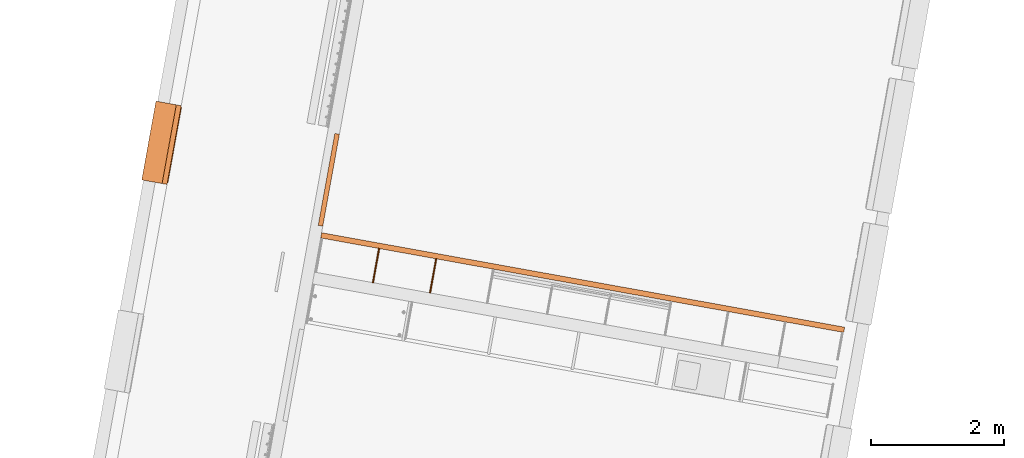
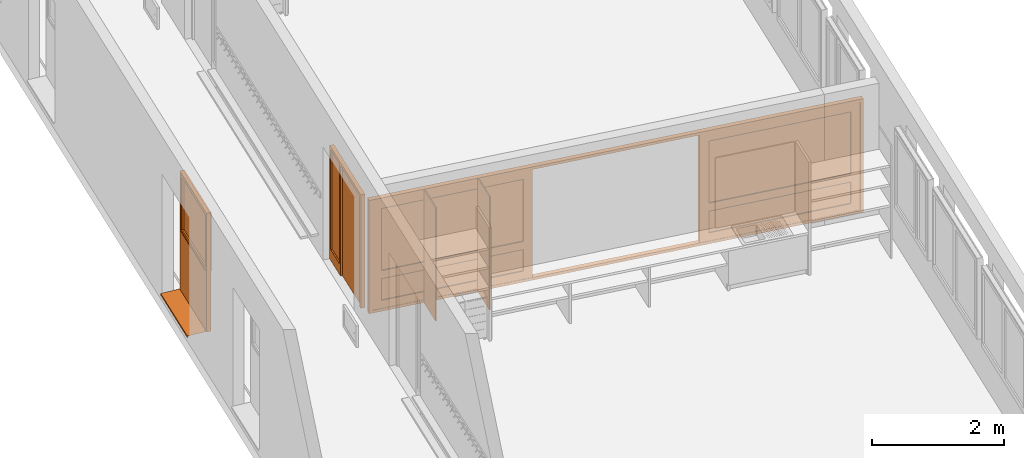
# One storey, part 11 of 52: 5 proxies.
"""IFC2X3 building model written with IfcOpenShell, lengths in metres."""

from ifc_helpers import new_model, entity, si_unit, converted_unit, derived_unit, money_unit, direction, frame, origin_with_axes, place, context, subcontext, project, spatial, polyline, outline, extrude, open_shell, faceted_brep, surface_model, source, transform, mapped, material, type_object, element, save


model = new_model("IFC2X3")

# Units and contexts
model_context = context("Model", 3, precision=1e-05, world=origin_with_axes(), true_north=direction((0.0, 1.0)))
body_context = subcontext(model_context, "Body", "Model", "MODEL_VIEW")
ifc_project = project(units=[si_unit("LENGTHUNIT", "METRE"), si_unit("AREAUNIT", "SQUARE_METRE"), si_unit("VOLUMEUNIT", "CUBIC_METRE"), converted_unit("PLANEANGLEUNIT", "DEGREE", entity("IfcPlaneAngleMeasure", 0.0174532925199), si_unit("PLANEANGLEUNIT", "RADIAN"), dimensions=[0, 0, 0, 0, 0, 0, 0]), money_unit("CHF"), converted_unit("TIMEUNIT", "Year", entity("IfcTimeMeasure", 31556926.0), si_unit("TIMEUNIT", "SECOND"), dimensions=[0, 0, 1, 0, 0, 0, 0]), si_unit("MASSUNIT", "GRAM", prefix="KILO"), si_unit("THERMODYNAMICTEMPERATUREUNIT", "DEGREE_CELSIUS"), si_unit("LUMINOUSINTENSITYUNIT", "LUMEN"), si_unit("ENERGYUNIT", "JOULE", prefix="MEGA"), derived_unit("THERMALCONDUCTANCEUNIT", [(si_unit("POWERUNIT", "WATT"), 1), (si_unit("LENGTHUNIT", "METRE"), -1), (si_unit("THERMODYNAMICTEMPERATUREUNIT", "KELVIN"), -1)]), derived_unit("SPECIFICHEATCAPACITYUNIT", [(si_unit("ENERGYUNIT", "JOULE"), 1), (si_unit("MASSUNIT", "GRAM", prefix="KILO"), -1), (si_unit("THERMODYNAMICTEMPERATUREUNIT", "KELVIN"), -1)]), derived_unit("MASSDENSITYUNIT", [(si_unit("MASSUNIT", "GRAM", prefix="KILO"), 1), (si_unit("VOLUMEUNIT", "CUBIC_METRE"), -1)])], contexts=[model_context])

# Site, building, storey
site_placement = place(None, frame((0.0, 0.0, 0.0), z_axis=(0.0, 0.0, 1.0), x_axis=(-0.177771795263, -0.984071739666, 0.0)))
site = spatial("IfcSite", under=ifc_project, at=site_placement, Name="Site", CompositionType="ELEMENT")
building_placement = place(site_placement, origin_with_axes())
building = spatial("IfcBuilding", under=site, at=building_placement, Name="Bâtiment", CompositionType="ELEMENT")
storey_placement = place(building_placement, frame((0.0, 0.0, 3.2), z_axis=(0.0, 0.0, 1.0), x_axis=(1.0, 0.0, 0.0)))
storey = spatial("IfcBuildingStorey", under=building, at=storey_placement, Name="R+1", CompositionType="ELEMENT", Elevation=3.2)

# Proxies
ifc_material_1 = material(Name="Matériau de construction IFC")
building_element_proxy_type_1 = type_object("IfcBuildingElementProxyType", Name="porte-couliss-triple_JM2", PredefinedType="NOTDEFINED")
shared_shape_1 = source(origin_with_axes(), body_context, "Body", "SurfaceModel", [
    surface_model("IfcShellBasedSurfaceModel", [(7.92, -0.0799999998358, 0.05), (7.92, -0.0799999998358, 2.05), (7.92, 1.64206426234e-10, 2.05), (7.92, 1.64206426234e-10, 0.05), (7.97, -0.0799999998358, 2.05), (7.97, -0.0799999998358, 0.05), (7.97, 1.64206426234e-10, 2.05), (7.97, 1.64206426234e-10, 0.05)], [open_shell([[[0, 1, 2, 3]], [[4, 1, 0, 5]], [[6, 7, 3, 2]]])]),
    surface_model("IfcShellBasedSurfaceModel", [(7.97, -0.0799999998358, 0.0), (7.97, -0.0799999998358, 2.1), (7.97, 1.64206426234e-10, 2.1), (7.97, 1.64206426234e-10, 0.0)], [open_shell([[[0, 1, 2, 3]]])]),
    surface_model("IfcShellBasedSurfaceModel", [(0.05, -0.0799999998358, 0.05), (7.92, -0.0799999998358, 0.05), (7.92, 1.64206426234e-10, 0.05), (0.05, 1.64206426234e-10, 0.05), (7.92, -0.0799999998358, 0.0), (0.05, -0.0799999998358, 0.0), (7.92, 1.64206426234e-10, 0.0), (0.05, 1.64206426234e-10, 0.0)], [open_shell([[[0, 1, 2, 3]], [[4, 1, 0, 5]], [[6, 7, 3, 2]]])]),
    surface_model("IfcShellBasedSurfaceModel", [(7.97, -0.0799999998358, 0.0), (0.0, -0.0799999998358, 0.0), (0.0, 1.64206426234e-10, 0.0), (7.97, 1.64206426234e-10, 0.0)], [open_shell([[[0, 1, 2, 3]]])]),
    surface_model("IfcShellBasedSurfaceModel", [(7.97, -0.0799999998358, 0.0), (7.97, -0.0799999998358, 0.05), (7.92, -0.0799999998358, 0.05), (7.92, -0.0799999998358, 0.0)], [open_shell([[[0, 1, 2, 3]]])]),
    surface_model("IfcShellBasedSurfaceModel", [(7.97, 1.64206426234e-10, 0.0), (7.97, 1.64206426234e-10, 0.05), (7.92, 1.64206426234e-10, 0.05), (7.92, 1.64206426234e-10, 0.0)], [open_shell([[[0, 1, 2, 3]]])]),
    surface_model("IfcShellBasedSurfaceModel", [(0.05, -0.0799999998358, 0.0), (0.05, -0.0799999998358, 0.05), (0.0, -0.0799999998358, 0.05), (0.0, -0.0799999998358, 0.0)], [open_shell([[[0, 1, 2, 3]]])]),
    surface_model("IfcShellBasedSurfaceModel", [(0.05, 1.64206426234e-10, 0.0), (0.05, 1.64206426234e-10, 0.05), (0.0, 1.64206426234e-10, 0.05), (0.0, 1.64206426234e-10, 0.0)], [open_shell([[[0, 1, 2, 3]]])]),
    surface_model("IfcShellBasedSurfaceModel", [(0.05, -0.0799999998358, 2.05), (0.05, -0.0799999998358, 0.05), (0.05, 1.64206426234e-10, 0.05), (0.05, 1.64206426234e-10, 2.05), (0.0, -0.0799999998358, 0.05), (0.0, -0.0799999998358, 2.05), (0.0, 1.64206426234e-10, 0.05), (0.0, 1.64206426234e-10, 2.05)], [open_shell([[[0, 1, 2, 3]], [[4, 1, 0, 5]], [[6, 7, 3, 2]]])]),
    surface_model("IfcShellBasedSurfaceModel", [(0.0, -0.0799999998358, 0.0), (0.0, -0.0799999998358, 2.1), (0.0, 1.64206426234e-10, 2.1), (0.0, 1.64206426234e-10, 0.0)], [open_shell([[[0, 1, 2, 3]]])]),
    surface_model("IfcShellBasedSurfaceModel", [(7.92, -0.0799999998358, 2.05), (0.05, -0.0799999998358, 2.05), (0.05, 1.64206426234e-10, 2.05), (7.92, 1.64206426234e-10, 2.05), (0.05, -0.0799999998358, 2.1), (7.92, -0.0799999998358, 2.1), (0.05, 1.64206426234e-10, 2.1), (7.92, 1.64206426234e-10, 2.1)], [open_shell([[[0, 1, 2, 3]], [[4, 1, 0, 5]], [[6, 7, 3, 2]]])]),
    surface_model("IfcShellBasedSurfaceModel", [(7.97, -0.0799999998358, 2.1), (0.0, -0.0799999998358, 2.1), (0.0, 1.64206426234e-10, 2.1), (7.97, 1.64206426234e-10, 2.1)], [open_shell([[[0, 1, 2, 3]]])]),
    surface_model("IfcShellBasedSurfaceModel", [(7.97, -0.0799999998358, 2.05), (7.97, -0.0799999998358, 2.1), (7.92, -0.0799999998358, 2.1), (7.92, -0.0799999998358, 2.05)], [open_shell([[[0, 1, 2, 3]]])]),
    surface_model("IfcShellBasedSurfaceModel", [(7.97, 1.64206426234e-10, 2.05), (7.97, 1.64206426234e-10, 2.1), (7.92, 1.64206426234e-10, 2.1), (7.92, 1.64206426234e-10, 2.05)], [open_shell([[[0, 1, 2, 3]]])]),
    surface_model("IfcShellBasedSurfaceModel", [(0.05, -0.0799999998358, 2.05), (0.05, -0.0799999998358, 2.1), (0.0, -0.0799999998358, 2.1), (0.0, -0.0799999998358, 2.05)], [open_shell([[[0, 1, 2, 3]]])]),
    surface_model("IfcShellBasedSurfaceModel", [(0.05, 1.64206426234e-10, 2.05), (0.05, 1.64206426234e-10, 2.1), (0.0, 1.64206426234e-10, 2.1), (0.0, 1.64206426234e-10, 2.05)], [open_shell([[[0, 1, 2, 3]]])]),
    surface_model("IfcShellBasedSurfaceModel", [(7.77, -0.0744999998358, 0.2), (7.77, -0.0744999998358, 1.9), (7.77, -0.00449999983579, 1.9), (7.77, -0.00449999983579, 0.2), (7.92, -0.0744999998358, 1.9), (7.92, -0.0744999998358, 0.2), (7.92, -0.00449999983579, 1.9), (7.92, -0.00449999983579, 0.2)], [open_shell([[[0, 1, 2, 3]], [[4, 1, 0, 5]], [[6, 7, 3, 2]]])]),
    surface_model("IfcShellBasedSurfaceModel", [(7.92, -0.0744999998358, 0.05), (7.92, -0.0744999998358, 2.05), (7.92, -0.00449999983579, 2.05), (7.92, -0.00449999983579, 0.05)], [open_shell([[[0, 1, 2, 3]]])]),
    surface_model("IfcShellBasedSurfaceModel", [(5.48, -0.0744999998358, 0.2), (7.77, -0.0744999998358, 0.2), (7.77, -0.00449999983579, 0.2), (5.48, -0.00449999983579, 0.2), (7.77, -0.0744999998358, 0.05), (5.48, -0.0744999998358, 0.05), (7.77, -0.00449999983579, 0.05), (5.48, -0.00449999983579, 0.05)], [open_shell([[[0, 1, 2, 3]], [[4, 1, 0, 5]], [[6, 7, 3, 2]]])]),
    surface_model("IfcShellBasedSurfaceModel", [(7.92, -0.0744999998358, 0.05), (5.33, -0.0744999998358, 0.05), (5.33, -0.00449999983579, 0.05), (7.92, -0.00449999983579, 0.05)], [open_shell([[[0, 1, 2, 3]]])]),
    surface_model("IfcShellBasedSurfaceModel", [(7.92, -0.0744999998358, 0.05), (7.92, -0.0744999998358, 0.2), (7.77, -0.0744999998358, 0.2), (7.77, -0.0744999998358, 0.05)], [open_shell([[[0, 1, 2, 3]]])]),
    surface_model("IfcShellBasedSurfaceModel", [(7.92, -0.00449999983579, 0.05), (7.92, -0.00449999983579, 0.2), (7.77, -0.00449999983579, 0.2), (7.77, -0.00449999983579, 0.05)], [open_shell([[[0, 1, 2, 3]]])]),
    surface_model("IfcShellBasedSurfaceModel", [(5.48, -0.0744999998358, 0.05), (5.48, -0.0744999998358, 0.2), (5.33, -0.0744999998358, 0.2), (5.33, -0.0744999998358, 0.05)], [open_shell([[[0, 1, 2, 3]]])]),
    surface_model("IfcShellBasedSurfaceModel", [(5.48, -0.00449999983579, 0.05), (5.48, -0.00449999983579, 0.2), (5.33, -0.00449999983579, 0.2), (5.33, -0.00449999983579, 0.05)], [open_shell([[[0, 1, 2, 3]]])]),
    surface_model("IfcShellBasedSurfaceModel", [(5.48, -0.0744999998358, 1.9), (5.48, -0.0744999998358, 0.2), (5.48, -0.00449999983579, 0.2), (5.48, -0.00449999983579, 1.9), (5.33, -0.0744999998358, 0.2), (5.33, -0.0744999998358, 1.9), (5.33, -0.00449999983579, 0.2), (5.33, -0.00449999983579, 1.9)], [open_shell([[[0, 1, 2, 3]], [[4, 1, 0, 5]], [[6, 7, 3, 2]]])]),
    surface_model("IfcShellBasedSurfaceModel", [(5.33, -0.0744999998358, 0.05), (5.33, -0.0744999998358, 2.05), (5.33, -0.00449999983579, 2.05), (5.33, -0.00449999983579, 0.05)], [open_shell([[[0, 1, 2, 3]]])]),
    surface_model("IfcShellBasedSurfaceModel", [(7.77, -0.0744999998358, 1.9), (5.48, -0.0744999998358, 1.9), (5.48, -0.00449999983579, 1.9), (7.77, -0.00449999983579, 1.9), (5.48, -0.0744999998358, 2.05), (7.77, -0.0744999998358, 2.05), (5.48, -0.00449999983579, 2.05), (7.77, -0.00449999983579, 2.05)], [open_shell([[[0, 1, 2, 3]], [[4, 1, 0, 5]], [[6, 7, 3, 2]]])]),
    surface_model("IfcShellBasedSurfaceModel", [(7.92, -0.0744999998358, 2.05), (5.33, -0.0744999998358, 2.05), (5.33, -0.00449999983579, 2.05), (7.92, -0.00449999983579, 2.05)], [open_shell([[[0, 1, 2, 3]]])]),
    surface_model("IfcShellBasedSurfaceModel", [(7.92, -0.0744999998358, 1.9), (7.92, -0.0744999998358, 2.05), (7.77, -0.0744999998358, 2.05), (7.77, -0.0744999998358, 1.9)], [open_shell([[[0, 1, 2, 3]]])]),
    surface_model("IfcShellBasedSurfaceModel", [(7.92, -0.00449999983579, 1.9), (7.92, -0.00449999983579, 2.05), (7.77, -0.00449999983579, 2.05), (7.77, -0.00449999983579, 1.9)], [open_shell([[[0, 1, 2, 3]]])]),
    surface_model("IfcShellBasedSurfaceModel", [(5.48, -0.0744999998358, 1.9), (5.48, -0.0744999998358, 2.05), (5.33, -0.0744999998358, 2.05), (5.33, -0.0744999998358, 1.9)], [open_shell([[[0, 1, 2, 3]]])]),
    surface_model("IfcShellBasedSurfaceModel", [(5.48, -0.00449999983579, 1.9), (5.48, -0.00449999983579, 2.05), (5.33, -0.00449999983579, 2.05), (5.33, -0.00449999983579, 1.9)], [open_shell([[[0, 1, 2, 3]]])]),
    faceted_brep([(5.48, -0.0194999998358, 0.2), (7.77, -0.0194999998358, 0.2), (7.77, -0.0594999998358, 0.2), (5.48, -0.0594999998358, 0.2), (5.48, -0.0194999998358, 0.6), (7.77, -0.0194999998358, 0.6), (7.77, -0.0594999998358, 0.6), (5.48, -0.0594999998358, 0.6)], [[[0, 1, 2, 3]], [[1, 0, 4, 5]], [[2, 1, 5, 6]], [[3, 2, 6, 7]], [[0, 3, 7, 4]], [[5, 4, 7, 6]]]),
    faceted_brep([(5.48, -0.00449999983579, 0.6), (7.77, -0.00449999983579, 0.6), (7.77, -0.0744999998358, 0.6), (5.48, -0.0744999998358, 0.6), (5.48, -0.00449999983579, 0.75), (7.77, -0.00449999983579, 0.75), (7.77, -0.0744999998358, 0.75), (5.48, -0.0744999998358, 0.75)], [[[0, 1, 2, 3]], [[1, 0, 4, 5]], [[2, 1, 5, 6]], [[3, 2, 6, 7]], [[0, 3, 7, 4]], [[5, 4, 7, 6]]]),
    faceted_brep([(5.48, -0.0194999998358, 0.75), (7.77, -0.0194999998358, 0.75), (7.77, -0.0594999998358, 0.75), (5.48, -0.0594999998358, 0.75), (5.48, -0.0194999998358, 1.9), (7.77, -0.0194999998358, 1.9), (7.77, -0.0594999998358, 1.9), (5.48, -0.0594999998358, 1.9)], [[[0, 1, 2, 3]], [[1, 0, 4, 5]], [[2, 1, 5, 6]], [[3, 2, 6, 7]], [[0, 3, 7, 4]], [[5, 4, 7, 6]]]),
    surface_model("IfcShellBasedSurfaceModel", [(2.49, -0.0744999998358, 0.2), (2.49, -0.0744999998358, 1.9), (2.49, -0.00449999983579, 1.9), (2.49, -0.00449999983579, 0.2), (2.64, -0.0744999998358, 1.9), (2.64, -0.0744999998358, 0.2), (2.64, -0.00449999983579, 1.9), (2.64, -0.00449999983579, 0.2)], [open_shell([[[0, 1, 2, 3]], [[4, 1, 0, 5]], [[6, 7, 3, 2]]])]),
    surface_model("IfcShellBasedSurfaceModel", [(2.64, -0.0744999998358, 0.05), (2.64, -0.0744999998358, 2.05), (2.64, -0.00449999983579, 2.05), (2.64, -0.00449999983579, 0.05)], [open_shell([[[0, 1, 2, 3]]])]),
    surface_model("IfcShellBasedSurfaceModel", [(0.2, -0.0744999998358, 0.2), (2.49, -0.0744999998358, 0.2), (2.49, -0.00449999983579, 0.2), (0.2, -0.00449999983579, 0.2), (2.49, -0.0744999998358, 0.05), (0.2, -0.0744999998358, 0.05), (2.49, -0.00449999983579, 0.05), (0.2, -0.00449999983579, 0.05)], [open_shell([[[0, 1, 2, 3]], [[4, 1, 0, 5]], [[6, 7, 3, 2]]])]),
    surface_model("IfcShellBasedSurfaceModel", [(2.64, -0.0744999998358, 0.05), (0.05, -0.0744999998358, 0.05), (0.05, -0.00449999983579, 0.05), (2.64, -0.00449999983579, 0.05)], [open_shell([[[0, 1, 2, 3]]])]),
    surface_model("IfcShellBasedSurfaceModel", [(2.64, -0.0744999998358, 0.05), (2.64, -0.0744999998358, 0.2), (2.49, -0.0744999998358, 0.2), (2.49, -0.0744999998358, 0.05)], [open_shell([[[0, 1, 2, 3]]])]),
    surface_model("IfcShellBasedSurfaceModel", [(2.64, -0.00449999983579, 0.05), (2.64, -0.00449999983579, 0.2), (2.49, -0.00449999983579, 0.2), (2.49, -0.00449999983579, 0.05)], [open_shell([[[0, 1, 2, 3]]])]),
    surface_model("IfcShellBasedSurfaceModel", [(0.2, -0.0744999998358, 0.05), (0.2, -0.0744999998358, 0.2), (0.05, -0.0744999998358, 0.2), (0.05, -0.0744999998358, 0.05)], [open_shell([[[0, 1, 2, 3]]])]),
    surface_model("IfcShellBasedSurfaceModel", [(0.2, -0.00449999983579, 0.05), (0.2, -0.00449999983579, 0.2), (0.05, -0.00449999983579, 0.2), (0.05, -0.00449999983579, 0.05)], [open_shell([[[0, 1, 2, 3]]])]),
    surface_model("IfcShellBasedSurfaceModel", [(0.2, -0.0744999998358, 1.9), (0.2, -0.0744999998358, 0.2), (0.2, -0.00449999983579, 0.2), (0.2, -0.00449999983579, 1.9), (0.05, -0.0744999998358, 0.2), (0.05, -0.0744999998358, 1.9), (0.05, -0.00449999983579, 0.2), (0.05, -0.00449999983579, 1.9)], [open_shell([[[0, 1, 2, 3]], [[4, 1, 0, 5]], [[6, 7, 3, 2]]])]),
    surface_model("IfcShellBasedSurfaceModel", [(0.05, -0.0744999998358, 0.05), (0.05, -0.0744999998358, 2.05), (0.05, -0.00449999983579, 2.05), (0.05, -0.00449999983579, 0.05)], [open_shell([[[0, 1, 2, 3]]])]),
    surface_model("IfcShellBasedSurfaceModel", [(2.49, -0.0744999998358, 1.9), (0.2, -0.0744999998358, 1.9), (0.2, -0.00449999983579, 1.9), (2.49, -0.00449999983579, 1.9), (0.2, -0.0744999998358, 2.05), (2.49, -0.0744999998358, 2.05), (0.2, -0.00449999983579, 2.05), (2.49, -0.00449999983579, 2.05)], [open_shell([[[0, 1, 2, 3]], [[4, 1, 0, 5]], [[6, 7, 3, 2]]])]),
    surface_model("IfcShellBasedSurfaceModel", [(2.64, -0.0744999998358, 2.05), (0.05, -0.0744999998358, 2.05), (0.05, -0.00449999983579, 2.05), (2.64, -0.00449999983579, 2.05)], [open_shell([[[0, 1, 2, 3]]])]),
    surface_model("IfcShellBasedSurfaceModel", [(2.64, -0.0744999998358, 1.9), (2.64, -0.0744999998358, 2.05), (2.49, -0.0744999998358, 2.05), (2.49, -0.0744999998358, 1.9)], [open_shell([[[0, 1, 2, 3]]])]),
    surface_model("IfcShellBasedSurfaceModel", [(2.64, -0.00449999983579, 1.9), (2.64, -0.00449999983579, 2.05), (2.49, -0.00449999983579, 2.05), (2.49, -0.00449999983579, 1.9)], [open_shell([[[0, 1, 2, 3]]])]),
    surface_model("IfcShellBasedSurfaceModel", [(0.2, -0.0744999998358, 1.9), (0.2, -0.0744999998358, 2.05), (0.05, -0.0744999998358, 2.05), (0.05, -0.0744999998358, 1.9)], [open_shell([[[0, 1, 2, 3]]])]),
    surface_model("IfcShellBasedSurfaceModel", [(0.2, -0.00449999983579, 1.9), (0.2, -0.00449999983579, 2.05), (0.05, -0.00449999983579, 2.05), (0.05, -0.00449999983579, 1.9)], [open_shell([[[0, 1, 2, 3]]])]),
    faceted_brep([(0.2, -0.0194999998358, 0.2), (2.49, -0.0194999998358, 0.2), (2.49, -0.0594999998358, 0.2), (0.2, -0.0594999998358, 0.2), (0.2, -0.0194999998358, 0.6), (2.49, -0.0194999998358, 0.6), (2.49, -0.0594999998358, 0.6), (0.2, -0.0594999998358, 0.6)], [[[0, 1, 2, 3]], [[1, 0, 4, 5]], [[2, 1, 5, 6]], [[3, 2, 6, 7]], [[0, 3, 7, 4]], [[5, 4, 7, 6]]]),
    faceted_brep([(0.2, -0.00449999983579, 0.6), (2.49, -0.00449999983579, 0.6), (2.49, -0.0744999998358, 0.6), (0.2, -0.0744999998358, 0.6), (0.2, -0.00449999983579, 0.75), (2.49, -0.00449999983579, 0.75), (2.49, -0.0744999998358, 0.75), (0.2, -0.0744999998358, 0.75)], [[[0, 1, 2, 3]], [[1, 0, 4, 5]], [[2, 1, 5, 6]], [[3, 2, 6, 7]], [[0, 3, 7, 4]], [[5, 4, 7, 6]]]),
    faceted_brep([(0.2, -0.0194999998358, 0.75), (2.49, -0.0194999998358, 0.75), (2.49, -0.0594999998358, 0.75), (0.2, -0.0594999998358, 0.75), (0.2, -0.0194999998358, 1.9), (2.49, -0.0194999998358, 1.9), (2.49, -0.0594999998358, 1.9), (0.2, -0.0594999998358, 1.9)], [[[0, 1, 2, 3]], [[1, 0, 4, 5]], [[2, 1, 5, 6]], [[3, 2, 6, 7]], [[0, 3, 7, 4]], [[5, 4, 7, 6]]]),
])
proxy_1_placement = place(storey_placement, frame((154.919841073, -156.44715293, 0.0), z_axis=(0.0, 0.0, 1.0), x_axis=(0.0, 1.0, 0.0)))
element("IfcBuildingElementProxy", 1, at=proxy_1_placement, inside=storey, type_object=building_element_proxy_type_1, material=ifc_material_1, Name="coulissant-classe", context=body_context, shape_type="MappedRepresentation", body=[
    mapped(shared_shape_1, transform((0.0, 0.0, 0.0))),
])
ifc_material_2 = material(Name="_panneau mélaminé")
building_element_proxy_type_2 = type_object("IfcBuildingElementProxyType", Name="_panneau mélaminé 19", PredefinedType="NOTDEFINED")
for number, where, z_axis, x_axis, name in (
    (2, (155.51984114, -154.686651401, 0.0), (0.0, 0.0, 1.0), (-1.0, 0.0, 0.0), "cloison pl-classe"),
    (3, (155.51984114, -155.556651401, 0.0), (0.0, 0.0, 1.0), (-1.0, 0.0, 0.0), "cloison pl-classe"),
):
    element("IfcBuildingElementProxy", number, at=place(storey_placement, frame(where, z_axis=z_axis, x_axis=x_axis)), inside=storey, type_object=building_element_proxy_type_2, material=ifc_material_2, Name=name, context=body_context, shape_type="SweptSolid", body=[
        extrude(outline(polyline([(0.0, -0.0095), (0.520000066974, -0.0095), (0.520000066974, 0.0095), (0.0, 0.0095), (0.0, -0.0095)])), origin_with_axes(), (0.0, 0.0, 1.0), 2.1),
    ])
building_element_proxy_type_3 = type_object("IfcBuildingElementProxyType", Name="Porte avec tierce vitrée côté 2 21", PredefinedType="NOTDEFINED")
shared_shape_2 = source(origin_with_axes(), body_context, "Body", "SurfaceModel", [
    faceted_brep([(0.0, 0.179999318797, 0.0), (0.05, 0.179999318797, 0.0), (0.05, 0.109999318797, 0.0), (0.0, 0.109999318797, 0.0), (0.0, 0.179999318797, 2.05), (0.05, 0.179999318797, 2.05), (0.05, 0.179999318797, 0.2), (0.05, 0.109999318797, 0.2), (0.05, 0.109999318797, 2.05), (0.0, 0.109999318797, 2.05)], [[[0, 1, 2, 3]], [[0, 4, 5, 6, 1]], [[1, 6, 7, 2]], [[3, 2, 7, 8, 9]], [[4, 0, 3, 9]], [[5, 4, 9, 8]], [[6, 5, 8, 7]]]),
    faceted_brep([(0.49, 0.139999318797, 0.0), (0.49, 0.139999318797, 2.05), (0.49, 0.109999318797, 2.05), (0.49, 0.109999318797, 0.0), (0.47, 0.139999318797, 2.05), (0.47, 0.139999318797, 0.0), (0.47, 0.179999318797, 2.05), (0.44, 0.179999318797, 2.05), (0.44, 0.109999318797, 2.05), (0.44, 0.109999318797, 0.0), (0.44, 0.109999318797, 0.2), (0.44, 0.179999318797, 0.0), (0.47, 0.179999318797, 0.0), (0.44, 0.179999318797, 0.2)], [[[0, 1, 2, 3]], [[4, 1, 0, 5]], [[4, 6, 7, 8, 2, 1]], [[9, 3, 2, 8, 10]], [[5, 0, 3, 9, 11, 12]], [[6, 4, 5, 12]], [[6, 12, 11, 13, 7]], [[13, 10, 8, 7]], [[11, 9, 10, 13]]]),
    faceted_brep([(0.05, 0.179999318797, 0.2), (0.05, 0.179999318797, 0.0), (0.05, 0.109999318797, 0.0), (0.05, 0.109999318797, 0.2), (0.44, 0.179999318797, 0.2), (0.44, 0.179999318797, 0.0), (0.44, 0.109999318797, 0.0), (0.44, 0.109999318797, 0.2)], [[[0, 1, 2, 3]], [[0, 4, 5, 1]], [[1, 5, 6, 2]], [[3, 2, 6, 7]], [[4, 0, 3, 7]], [[5, 4, 7, 6]]]),
    faceted_brep([(1.37, 0.139999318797, 2.05), (1.35, 0.139999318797, 2.05), (1.35, 0.109999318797, 2.05), (1.4, 0.109999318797, 2.05), (1.4, 0.179999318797, 2.05), (1.37, 0.179999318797, 2.05), (1.37, 0.139999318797, 0.0), (1.35, 0.139999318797, 0.0), (1.35, 0.109999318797, 0.0), (1.4, 0.109999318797, 0.0), (1.4, 0.179999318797, 0.0), (1.37, 0.179999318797, 0.0)], [[[0, 1, 2, 3, 4, 5]], [[1, 0, 6, 7]], [[1, 7, 8, 2]], [[3, 2, 8, 9]], [[4, 3, 9, 10]], [[11, 5, 4, 10]], [[0, 5, 11, 6]], [[6, 11, 10, 9, 8, 7]]]),
    faceted_brep([(0.47, 0.179999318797, 2.07), (0.47, 0.179999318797, 2.05), (0.44, 0.179999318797, 2.05), (0.05, 0.179999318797, 2.05), (0.0, 0.179999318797, 2.05), (0.0, 0.179999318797, 2.1), (1.4, 0.179999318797, 2.1), (1.4, 0.179999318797, 2.05), (1.37, 0.179999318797, 2.05), (1.37, 0.179999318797, 2.07), (0.47, 0.139999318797, 2.07), (0.47, 0.139999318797, 2.05), (1.35, 0.139999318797, 2.05), (1.35, 0.109999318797, 2.05), (0.49, 0.109999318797, 2.05), (0.44, 0.109999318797, 2.05), (0.05, 0.109999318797, 2.05), (0.0, 0.109999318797, 2.05), (0.0, 0.109999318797, 2.1), (1.4, 0.109999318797, 2.1), (1.4, 0.109999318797, 2.05), (1.37, 0.139999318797, 2.05), (1.37, 0.139999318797, 2.07)], [[[0, 1, 2, 3, 4, 5, 6, 7, 8, 9]], [[1, 0, 10, 11]], [[11, 12, 13, 14, 15, 2, 1]], [[2, 15, 16, 3]], [[3, 16, 17, 4]], [[4, 17, 18, 5]], [[5, 18, 19, 6]], [[6, 19, 20, 7]], [[21, 8, 7, 20, 13, 12]], [[9, 8, 21, 22]], [[0, 9, 22, 10]], [[21, 12, 11, 10, 22]], [[13, 20, 19, 18, 17, 16, 15, 14]]]),
    faceted_brep([(1.37, 0.179999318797, 0.0), (1.37, 0.139999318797, 0.0), (0.47, 0.139999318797, 0.0), (0.47, 0.179999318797, 0.0), (1.37, 0.179999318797, 2.07), (1.37, 0.139999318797, 2.07), (0.47, 0.139999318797, 2.07), (0.47, 0.179999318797, 2.07)], [[[0, 1, 2, 3]], [[4, 5, 1, 0]], [[1, 5, 6, 2]], [[3, 2, 6, 7]], [[0, 3, 7, 4]], [[7, 6, 5, 4]]]),
    surface_model("IfcShellBasedSurfaceModel", [(0.05, 0.144999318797, 0.2), (0.05, 0.144999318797, 2.05), (0.44, 0.144999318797, 2.05), (0.44, 0.144999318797, 0.2)], [open_shell([[[0, 1, 2, 3]]])]),
    surface_model("IfcShellBasedSurfaceModel", [(0.05, 0.134999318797, 0.2), (0.44, 0.134999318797, 0.2), (0.44, 0.134999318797, 2.05), (0.05, 0.134999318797, 2.05)], [open_shell([[[0, 1, 2, 3]]])]),
])
proxy_2_placement = place(storey_placement, frame((153.419841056, -156.62715293, 0.0), z_axis=(0.0, 0.0, 1.0), x_axis=(1.0, 0.0, 0.0)))
element("IfcBuildingElementProxy", 4, at=proxy_2_placement, inside=storey, type_object=building_element_proxy_type_3, material=ifc_material_1, Name="18", context=body_context, shape_type="MappedRepresentation", body=[
    mapped(shared_shape_2, transform((0.0, 0.0, 0.0))),
])
building_element_proxy_type_4 = type_object("IfcBuildingElementProxyType", Name="Fenêtre variable 21", PredefinedType="NOTDEFINED")
shared_shape_3 = source(origin_with_axes(), body_context, "Body", "SurfaceModel", [
    surface_model("IfcShellBasedSurfaceModel", [(1.2, 0.284, 0.02), (0.0, 0.284, 0.02), (0.0, 0.284, 0.01), (1.2, 0.284, 0.01), (0.0, -0.025, -0.00087719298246), (1.2, -0.025, -0.00087719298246), (0.0, -0.025, -0.0308771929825), (1.2, -0.025, -0.0308771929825), (0.0, -0.0125, -0.0183771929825), (1.2, -0.0125, -0.0183771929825)], [open_shell([[[0, 1, 2, 3]], [[3, 2, 4, 5]], [[5, 4, 6, 7]], [[7, 6, 8, 9]]])]),
    faceted_brep([(1.18, 0.36, 2.169), (1.18, 0.295, 2.169), (1.17, 0.295, 2.169), (1.17, 0.285, 2.169), (1.2, 0.285, 2.169), (1.2, 0.36, 2.169), (1.18, 0.36, 1.095), (1.18, 0.295, 1.095), (1.17, 0.295, 1.105), (1.17, 0.295, 1.095), (1.17, 0.285, 1.105), (1.17, 0.285, 1.055), (1.17, 0.285, 0.05), (1.2, 0.285, 0.05), (1.2, 0.36, 0.05), (1.17, 0.36, 0.05), (1.17, 0.36, 1.055), (1.17, 0.36, 1.095)], [[[0, 1, 2, 3, 4, 5]], [[1, 0, 6, 7]], [[8, 2, 1, 7, 9]], [[2, 8, 10, 3]], [[10, 11, 12, 13, 4, 3]], [[5, 4, 13, 14]], [[6, 0, 5, 14, 15, 16, 17]], [[6, 17, 9, 7]], [[9, 17, 16, 11, 10, 8]], [[15, 12, 11, 16]], [[14, 13, 12, 15]]]),
    faceted_brep([(0.03, 0.295, 2.169), (0.02, 0.295, 2.169), (0.02, 0.36, 2.169), (0.0, 0.36, 2.169), (0.0, 0.285, 2.169), (0.03, 0.285, 2.169), (0.03, 0.295, 1.105), (0.03, 0.295, 1.095), (0.02, 0.295, 1.095), (0.02, 0.36, 1.095), (0.03, 0.36, 1.095), (0.03, 0.36, 1.055), (0.03, 0.36, 0.05), (0.0, 0.36, 0.05), (0.0, 0.285, 0.05), (0.03, 0.285, 0.05), (0.03, 0.285, 1.055), (0.03, 0.285, 1.105)], [[[0, 1, 2, 3, 4, 5]], [[1, 0, 6, 7, 8]], [[9, 2, 1, 8]], [[9, 10, 11, 12, 13, 3, 2]], [[13, 14, 4, 3]], [[14, 15, 16, 17, 5, 4]], [[6, 0, 5, 17]], [[7, 6, 17, 16, 11, 10]], [[10, 9, 8, 7]], [[11, 16, 15, 12]], [[12, 15, 14, 13]]]),
    faceted_brep([(1.17, 0.295, 1.105), (0.03, 0.295, 1.105), (0.03, 0.285, 1.105), (1.17, 0.285, 1.105), (0.03, 0.295, 1.095), (1.17, 0.295, 1.095), (0.03, 0.36, 1.095), (0.03, 0.36, 1.055), (0.03, 0.285, 1.055), (1.17, 0.285, 1.055), (1.17, 0.36, 1.055), (1.17, 0.36, 1.095)], [[[0, 1, 2, 3]], [[4, 1, 0, 5]], [[4, 6, 7, 8, 2, 1]], [[8, 9, 3, 2]], [[5, 0, 3, 9, 10, 11]], [[11, 6, 4, 5]], [[6, 11, 10, 7]], [[10, 9, 8, 7]]]),
    faceted_brep([(1.18, 0.36, 2.169), (1.18, 0.36, 2.179), (0.02, 0.36, 2.179), (0.02, 0.36, 2.169), (0.0, 0.36, 2.169), (0.0, 0.36, 2.199), (1.2, 0.36, 2.199), (1.2, 0.36, 2.169), (1.18, 0.295, 2.169), (1.18, 0.295, 2.179), (0.02, 0.295, 2.179), (0.02, 0.295, 2.169), (0.03, 0.295, 2.169), (0.03, 0.285, 2.169), (0.0, 0.285, 2.169), (0.0, 0.285, 2.199), (1.2, 0.285, 2.199), (1.2, 0.285, 2.169), (1.17, 0.285, 2.169), (1.17, 0.295, 2.169)], [[[0, 1, 2, 3, 4, 5, 6, 7]], [[1, 0, 8, 9]], [[2, 1, 9, 10]], [[3, 2, 10, 11]], [[11, 12, 13, 14, 4, 3]], [[4, 14, 15, 5]], [[5, 15, 16, 6]], [[6, 16, 17, 7]], [[8, 0, 7, 17, 18, 19]], [[12, 11, 10, 9, 8, 19]], [[12, 19, 18, 13]], [[14, 13, 18, 17, 16, 15]]]),
    faceted_brep([(1.17, 0.285, 0.05), (1.2, 0.285, 0.05), (1.2, 0.36, 0.05), (1.17, 0.36, 0.05), (0.03, 0.285, 0.05), (0.0, 0.285, 0.05), (0.0, 0.285, 0.0), (1.2, 0.285, 0.0), (1.2, 0.36, 0.0), (0.0, 0.36, 0.0), (0.0, 0.36, 0.05), (0.03, 0.36, 0.05)], [[[0, 1, 2, 3]], [[0, 4, 5, 6, 7, 1]], [[1, 7, 8, 2]], [[3, 2, 8, 9, 10, 11]], [[4, 0, 3, 11]], [[5, 4, 11, 10]], [[6, 5, 10, 9]], [[7, 6, 9, 8]]]),
    faceted_brep([(1.12, 0.295, 2.119), (1.18, 0.295, 2.119), (1.18, 0.37, 2.119), (1.12, 0.37, 2.119), (1.12, 0.295, 1.155), (1.18, 0.295, 1.155), (1.18, 0.37, 1.155), (1.12, 0.37, 1.155)], [[[0, 1, 2, 3]], [[0, 4, 5, 1]], [[1, 5, 6, 2]], [[3, 2, 6, 7]], [[4, 0, 3, 7]], [[5, 4, 7, 6]]]),
    faceted_brep([(0.08, 0.295, 1.155), (0.02, 0.295, 1.155), (0.02, 0.37, 1.155), (0.08, 0.37, 1.155), (0.08, 0.295, 2.119), (0.02, 0.295, 2.119), (0.02, 0.37, 2.119), (0.08, 0.37, 2.119)], [[[0, 1, 2, 3]], [[0, 4, 5, 1]], [[1, 5, 6, 2]], [[3, 2, 6, 7]], [[4, 0, 3, 7]], [[5, 4, 7, 6]]]),
    faceted_brep([(0.02, 0.295, 1.095), (0.02, 0.295, 1.155), (0.02, 0.37, 1.155), (0.02, 0.37, 1.095), (1.18, 0.295, 1.095), (1.18, 0.295, 1.155), (1.12, 0.295, 1.155), (0.08, 0.295, 1.155), (0.08, 0.37, 1.155), (1.12, 0.37, 1.155), (1.18, 0.37, 1.155), (1.18, 0.37, 1.095)], [[[0, 1, 2, 3]], [[0, 4, 5, 6, 7, 1]], [[1, 7, 8, 2]], [[3, 2, 8, 9, 10, 11]], [[4, 0, 3, 11]], [[5, 4, 11, 10]], [[6, 5, 10, 9]], [[7, 6, 9, 8]]]),
    faceted_brep([(1.18, 0.295, 2.179), (1.18, 0.295, 2.119), (1.18, 0.37, 2.119), (1.18, 0.37, 2.179), (0.02, 0.295, 2.179), (0.02, 0.295, 2.119), (0.08, 0.295, 2.119), (1.12, 0.295, 2.119), (1.12, 0.37, 2.119), (0.08, 0.37, 2.119), (0.02, 0.37, 2.119), (0.02, 0.37, 2.179)], [[[0, 1, 2, 3]], [[0, 4, 5, 6, 7, 1]], [[1, 7, 8, 2]], [[3, 2, 8, 9, 10, 11]], [[4, 0, 3, 11]], [[5, 4, 11, 10]], [[6, 5, 10, 9]], [[7, 6, 9, 8]]]),
    surface_model("IfcShellBasedSurfaceModel", [(1.12, 0.3225, 1.155), (1.12, 0.3225, 2.119), (0.08, 0.3225, 2.119), (0.08, 0.3225, 1.155)], [open_shell([[[0, 1, 2, 3]]])]),
    surface_model("IfcShellBasedSurfaceModel", [(1.12, 0.3425, 1.155), (0.08, 0.3425, 1.155), (0.08, 0.3425, 2.119), (1.12, 0.3425, 2.119)], [open_shell([[[0, 1, 2, 3]]])]),
    surface_model("IfcShellBasedSurfaceModel", [(1.17, 0.285, 0.05), (1.17, 0.285, 1.055), (0.03, 0.285, 1.055), (0.03, 0.285, 0.05)], [open_shell([[[0, 1, 2, 3]]])]),
    surface_model("IfcShellBasedSurfaceModel", [(1.17, 0.305, 0.05), (0.03, 0.305, 0.05), (0.03, 0.305, 1.055), (1.17, 0.305, 1.055)], [open_shell([[[0, 1, 2, 3]]])]),
])
proxy_3_placement = place(storey_placement, frame((153.419841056, -159.217107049, 0.001), z_axis=(0.0, 0.0, 1.0), x_axis=(1.0, 0.0, 0.0)))
element("IfcBuildingElementProxy", 5, at=proxy_3_placement, inside=storey, type_object=building_element_proxy_type_4, material=ifc_material_1, Name="Fen couloir", context=body_context, shape_type="MappedRepresentation", body=[
    mapped(shared_shape_3, transform((0.0, 0.0, 0.0))),
])

save(model, "model.ifc")
